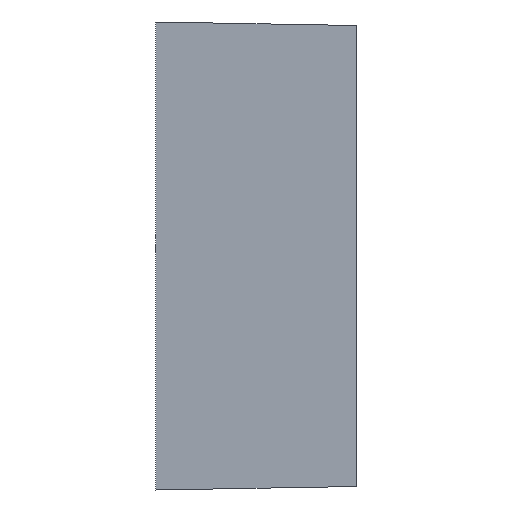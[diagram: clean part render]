
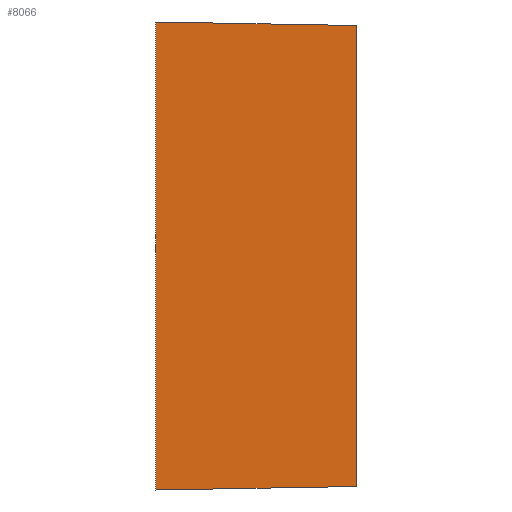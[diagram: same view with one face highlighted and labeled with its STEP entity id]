
A CAD part, left-side view. The second image highlights one B-rep face of the part: STEP entity #8066.
In plain terms, the highlighted planar face has unit normal (-1, 0, 0).
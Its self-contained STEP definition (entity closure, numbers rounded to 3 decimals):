
#317 = EDGE_CURVE ( 'NONE', #5553, #6238, #8290, .T. ) ;
#404 = CARTESIAN_POINT ( 'NONE',  ( -26.185, 32.5, -27.5 ) ) ;
#538 = CARTESIAN_POINT ( 'NONE',  ( -26.185, 32.5, -27.483 ) ) ;
#567 = EDGE_CURVE ( 'NONE', #6878, #5553, #6282, .T. ) ;
#1312 = VECTOR ( 'NONE', #3936, 1000. ) ;
#1431 = CARTESIAN_POINT ( 'NONE',  ( -26.185, 33.5, 27.5 ) ) ;
#1606 = DIRECTION ( 'NONE',  ( 1., 0., 0. ) ) ;
#1871 = EDGE_CURVE ( 'NONE', #6238, #1911, #7177, .T. ) ;
#1911 = VERTEX_POINT ( 'NONE', #8008 ) ;
#3413 = DIRECTION ( 'NONE',  ( 0., 0., 1. ) ) ;
#3846 = EDGE_CURVE ( 'NONE', #1911, #6878, #4503, .T. ) ;
#3879 = DIRECTION ( 'NONE',  ( 0., 1., 0. ) ) ;
#3936 = DIRECTION ( 'NONE',  ( 0., 1., -0.017 ) ) ;
#4259 = VECTOR ( 'NONE', #8627, 1000. ) ;
#4282 = VECTOR ( 'NONE', #6005, 1000. ) ;
#4317 = CARTESIAN_POINT ( 'NONE',  ( -26.185, 8.9, -27.071 ) ) ;
#4503 = LINE ( 'NONE', #1431, #4282 ) ;
#4765 = ORIENTED_EDGE ( 'NONE', *, *, #567, .F. ) ;
#4983 = ORIENTED_EDGE ( 'NONE', *, *, #317, .F. ) ;
#5083 = VECTOR ( 'NONE', #3413, 1000. ) ;
#5553 = VERTEX_POINT ( 'NONE', #4317 ) ;
#5639 = CARTESIAN_POINT ( 'NONE',  ( -26.185, 8.9, 27.071 ) ) ;
#6005 = DIRECTION ( 'NONE',  ( 0., -1., -0.017 ) ) ;
#6089 = ORIENTED_EDGE ( 'NONE', *, *, #3846, .F. ) ;
#6238 = VERTEX_POINT ( 'NONE', #538 ) ;
#6282 = LINE ( 'NONE', #5639, #4259 ) ;
#6319 = ORIENTED_EDGE ( 'NONE', *, *, #1871, .F. ) ;
#6878 = VERTEX_POINT ( 'NONE', #8398 ) ;
#7177 = LINE ( 'NONE', #404, #5083 ) ;
#7624 = AXIS2_PLACEMENT_3D ( 'NONE', #9078, #1606, #3879 ) ;
#8008 = CARTESIAN_POINT ( 'NONE',  ( -26.185, 32.5, 27.483 ) ) ;
#8066 = ADVANCED_FACE ( 'NONE', ( #8333 ), #9171, .F. ) ;
#8290 = LINE ( 'NONE', #8338, #1312 ) ;
#8333 = FACE_OUTER_BOUND ( 'NONE', #9356, .T. ) ;
#8338 = CARTESIAN_POINT ( 'NONE',  ( -26.185, 8.9, -27.071 ) ) ;
#8398 = CARTESIAN_POINT ( 'NONE',  ( -26.185, 8.9, 27.071 ) ) ;
#8627 = DIRECTION ( 'NONE',  ( 0., 0., -1. ) ) ;
#9078 = CARTESIAN_POINT ( 'NONE',  ( -26.185, 8.9, 0. ) ) ;
#9171 = PLANE ( 'NONE',  #7624 ) ;
#9356 = EDGE_LOOP ( 'NONE', ( #6319, #4983, #4765, #6089 ) ) ;
